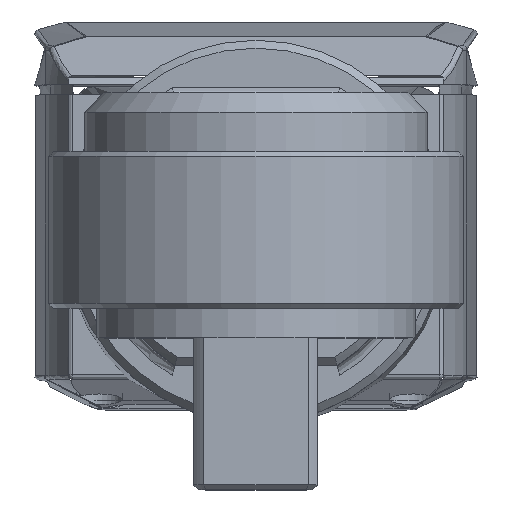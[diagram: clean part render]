
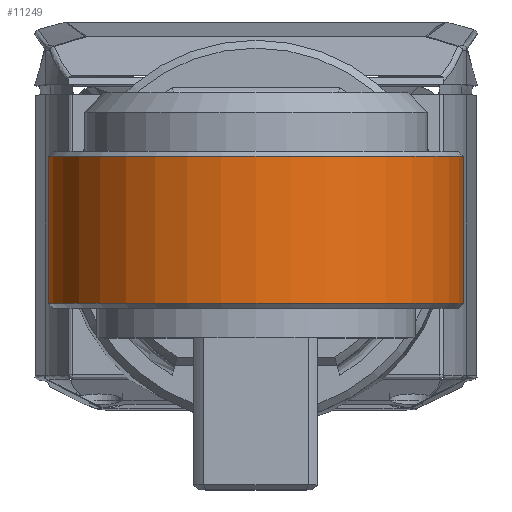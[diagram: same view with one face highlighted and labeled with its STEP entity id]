
A CAD part, top view. The second image highlights one B-rep face of the part: STEP entity #11249.
In plain terms, the highlighted cylindrical face has radius 21.176 mm (diameter 42.351 mm), a partial arc.
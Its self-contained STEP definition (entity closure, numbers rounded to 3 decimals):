
#10428=CARTESIAN_POINT('',(0.,10.05,422.));
#10429=DIRECTION('',(0.,-1.,0.));
#10430=DIRECTION('',(0.956,0.,-0.292));
#10431=AXIS2_PLACEMENT_3D('',#10428,#10429,#10430);
#10433=DIRECTION('',(0.,1.,0.));
#10434=VECTOR('',#10433,15.);
#10435=CARTESIAN_POINT('',(-20.25,10.05,
415.809));
#10436=LINE('',#10435,#10434);
#10437=CARTESIAN_POINT('',(0.,25.05,422.));
#10438=DIRECTION('',(0.,1.,0.));
#10439=DIRECTION('',(-0.956,0.,-0.292));
#10440=AXIS2_PLACEMENT_3D('',#10437,#10438,#10439);
#10446=DIRECTION('',(0.,1.,0.));
#10447=VECTOR('',#10446,15.);
#10448=CARTESIAN_POINT('',(20.25,10.05,415.809));
#10449=LINE('',#10448,#10447);
#10550=CARTESIAN_POINT('',(-20.25,10.05,
415.809));
#10551=VERTEX_POINT('',#10550);
#10556=CARTESIAN_POINT('',(20.25,10.05,415.809));
#10557=VERTEX_POINT('',#10556);
#10566=CARTESIAN_POINT('',(20.25,25.05,415.809));
#10567=VERTEX_POINT('',#10566);
#10572=CARTESIAN_POINT('',(-20.25,25.05,
415.809));
#10573=VERTEX_POINT('',#10572);
#11235=CARTESIAN_POINT('',(0.,9.55,422.));
#11236=DIRECTION('',(0.,-1.,0.));
#11237=DIRECTION('',(1.,0.,0.));
#11238=AXIS2_PLACEMENT_3D('',#11235,#11236,#11237);
#11239=CYLINDRICAL_SURFACE('',#11238,21.176);
#11241=ORIENTED_EDGE('',*,*,#11240,.T.);
#11242=ORIENTED_EDGE('',*,*,#11223,.T.);
#11244=ORIENTED_EDGE('',*,*,#11243,.T.);
#11246=ORIENTED_EDGE('',*,*,#11245,.F.);
#11247=EDGE_LOOP('',(#11241,#11242,#11244,#11246));
#11248=FACE_OUTER_BOUND('',#11247,.F.);
#10432=CIRCLE('',#10431,21.176);
#10441=CIRCLE('',#10440,21.176);
#11223=EDGE_CURVE('',#10551,#10573,#10436,.T.);
#11240=EDGE_CURVE('',#10557,#10551,#10432,.T.);
#11243=EDGE_CURVE('',#10573,#10567,#10441,.T.);
#11245=EDGE_CURVE('',#10557,#10567,#10449,.T.);
#11249=ADVANCED_FACE('',(#11248),#11239,.T.);
